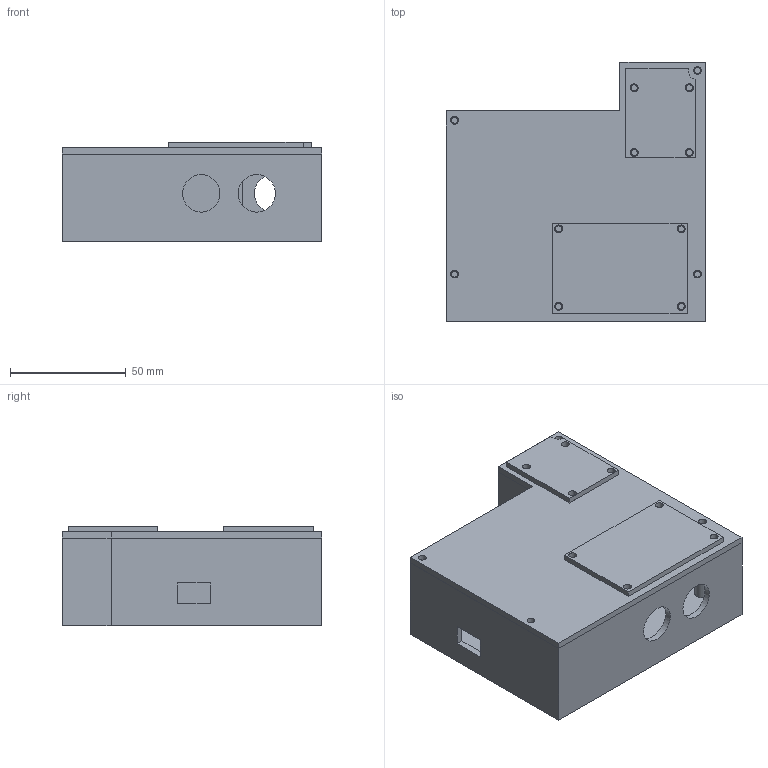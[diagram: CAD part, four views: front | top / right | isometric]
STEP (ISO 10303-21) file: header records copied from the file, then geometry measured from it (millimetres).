
FILE_DESCRIPTION(('FreeCAD Model'),'2;1');
FILE_NAME('Open CASCADE Shape Model','2026-11-16T14:52:50',('FreeCAD'),( 'FreeCAD'),'Open CASCADE STEP processor 7.9','FreeCAD','Unknown');
FILE_SCHEMA(('AUTOMOTIVE_DESIGN { 1 0 10303 214 1 1 1 1 }'));
Length unit declared in the file: millimetre
Products named in the file (1): Open CASCADE STEP translator 7.9 6
Bounding box: 112 x 112 x 43.2 mm (x, y, z)
Volume: 108409.8 mm3; surface area: 83810.8 mm2
Topology: 4 solids, 4 shells, 174 faces, 441 edges, 301 vertices
Faces by surface type: plane 117, cylinder 57
Full cylindrical faces by diameter (mm): 2.7 x16, 3.4 x12, 6.6 x8, 6.8 x4, 16.2 x3
Entity records: 5383 total; most frequent: DIRECTION 941, CARTESIAN_POINT 917, ORIENTED_EDGE 882, EDGE_CURVE 441, AXIS2_PLACEMENT_3D 325, VERTEX_POINT 301, LINE 291, VECTOR 291
